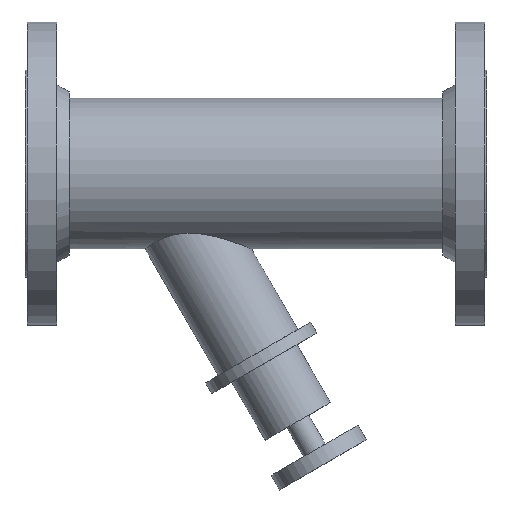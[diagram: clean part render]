
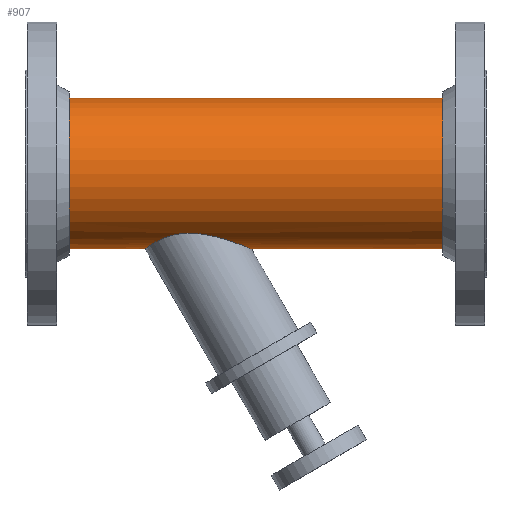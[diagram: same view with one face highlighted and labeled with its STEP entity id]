
A CAD part, top view. The second image highlights one B-rep face of the part: STEP entity #907.
In plain terms, the highlighted cylindrical face has radius 57.15 mm (diameter 114.3 mm), a full revolution.
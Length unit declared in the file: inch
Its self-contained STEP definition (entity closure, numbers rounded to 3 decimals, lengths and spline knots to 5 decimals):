
#45=B_SPLINE_CURVE_WITH_KNOTS('',3,(#1568,#1569,#1570,#1571,#1572,#1573,
#1574,#1575,#1576,#1577,#1578,#1579,#1580,#1581,#1582,#1583,#1584,#1585,
#1586,#1587,#1588,#1589,#1590,#1591,#1592,#1593,#1594,#1595,#1596,#1597,
#1598,#1599),.UNSPECIFIED.,.F.,.F.,(4,2,2,2,2,2,2,2,2,2,2,2,2,2,2,4),(6.32677,
7.01093,7.69508,8.37924,9.0634,10.85847,
11.756,12.65354,13.33788,14.02223,14.70658,
15.39092,16.0566,16.72228,17.38796,18.05364),
 .UNSPECIFIED.);
#46=B_SPLINE_CURVE_WITH_KNOTS('',3,(#1602,#1603,#1604,#1605,#1606,#1607,
#1608,#1609,#1610,#1611,#1612,#1613,#1614,#1615,#1616,#1617,#1618,#1619),
 .UNSPECIFIED.,.F.,.F.,(4,2,2,2,2,2,2,2,4),(18.05364,18.71932,
19.385,20.05068,20.71636,21.40071,22.08506,
22.7694,23.45375),.UNSPECIFIED.);
#47=B_SPLINE_CURVE_WITH_KNOTS('',3,(#1620,#1621,#1622,#1623,#1624,#1625,
#1626,#1627,#1628,#1629,#1630,#1631,#1632,#1633,#1634,#1635),
 .UNSPECIFIED.,.F.,.F.,(4,2,2,2,2,2,2,4),(0.,0.89753,1.79507,
3.59014,4.2743,4.95845,5.64261,6.32677),
 .UNSPECIFIED.);
#69=CYLINDRICAL_SURFACE('',#1033,2.25);
#98=LINE('',#1566,#128);
#99=LINE('',#1600,#129);
#128=VECTOR('',#1290,2.25);
#129=VECTOR('',#1291,2.25);
#210=FACE_OUTER_BOUND('',#290,.T.);
#290=EDGE_LOOP('',(#753,#754,#755,#756,#757,#758,#759,#760,#761,#762,#763));
#311=CIRCLE('',#943,2.25);
#312=CIRCLE('',#944,2.25);
#361=CIRCLE('',#1016,2.25);
#362=CIRCLE('',#1017,2.25);
#393=VERTEX_POINT('',#1389);
#394=VERTEX_POINT('',#1390);
#443=VERTEX_POINT('',#1532);
#444=VERTEX_POINT('',#1533);
#455=VERTEX_POINT('',#1565);
#456=VERTEX_POINT('',#1567);
#457=VERTEX_POINT('',#1601);
#478=EDGE_CURVE('',#393,#394,#311,.T.);
#479=EDGE_CURVE('',#394,#393,#312,.T.);
#548=EDGE_CURVE('',#443,#444,#361,.T.);
#549=EDGE_CURVE('',#444,#443,#362,.T.);
#563=EDGE_CURVE('',#444,#455,#98,.T.);
#564=EDGE_CURVE('',#455,#456,#45,.T.);
#565=EDGE_CURVE('',#456,#394,#99,.T.);
#566=EDGE_CURVE('',#456,#457,#46,.T.);
#567=EDGE_CURVE('',#457,#455,#47,.T.);
#753=ORIENTED_EDGE('',*,*,#548,.T.);
#754=ORIENTED_EDGE('',*,*,#563,.T.);
#755=ORIENTED_EDGE('',*,*,#564,.T.);
#756=ORIENTED_EDGE('',*,*,#565,.T.);
#757=ORIENTED_EDGE('',*,*,#479,.T.);
#758=ORIENTED_EDGE('',*,*,#478,.T.);
#759=ORIENTED_EDGE('',*,*,#565,.F.);
#760=ORIENTED_EDGE('',*,*,#566,.T.);
#761=ORIENTED_EDGE('',*,*,#567,.T.);
#762=ORIENTED_EDGE('',*,*,#563,.F.);
#763=ORIENTED_EDGE('',*,*,#549,.T.);
#907=ADVANCED_FACE('',(#210),#69,.T.);
#943=AXIS2_PLACEMENT_3D('',#1391,#1085,#1086);
#944=AXIS2_PLACEMENT_3D('',#1392,#1087,#1088);
#1016=AXIS2_PLACEMENT_3D('',#1534,#1251,#1252);
#1017=AXIS2_PLACEMENT_3D('',#1535,#1253,#1254);
#1033=AXIS2_PLACEMENT_3D('',#1564,#1288,#1289);
#1085=DIRECTION('center_axis',(1.,0.,0.));
#1086=DIRECTION('ref_axis',(0.,1.,0.));
#1087=DIRECTION('center_axis',(1.,0.,0.));
#1088=DIRECTION('ref_axis',(0.,1.,0.));
#1251=DIRECTION('center_axis',(-1.,0.,0.));
#1252=DIRECTION('ref_axis',(0.,1.,0.));
#1253=DIRECTION('center_axis',(-1.,0.,0.));
#1254=DIRECTION('ref_axis',(0.,1.,0.));
#1288=DIRECTION('center_axis',(1.,0.,0.));
#1289=DIRECTION('ref_axis',(0.,1.,0.));
#1290=DIRECTION('',(-1.,0.,0.));
#1291=DIRECTION('',(-1.,0.,0.));
#1389=CARTESIAN_POINT('',(-5.58,2.25,0.));
#1390=CARTESIAN_POINT('',(-5.58,-2.25,0.));
#1391=CARTESIAN_POINT('Origin',(-5.58,0.,0.));
#1392=CARTESIAN_POINT('Origin',(-5.58,0.,0.));
#1532=CARTESIAN_POINT('',(5.58,2.25,0.));
#1533=CARTESIAN_POINT('',(5.58,-2.25,0.));
#1534=CARTESIAN_POINT('Origin',(5.58,0.,0.));
#1535=CARTESIAN_POINT('Origin',(5.58,0.,0.));
#1564=CARTESIAN_POINT('Origin',(0.,0.,0.));
#1565=CARTESIAN_POINT('',(-0.1362,-2.25,0.));
#1566=CARTESIAN_POINT('',(0.,-2.25,0.));
#1567=CARTESIAN_POINT('',(-3.31162,-2.25,0.));
#1568=CARTESIAN_POINT('Ctrl Pts',(-0.1362,-2.25,0.));
#1569=CARTESIAN_POINT('Ctrl Pts',(-0.1362,-2.25,-0.08978));
#1570=CARTESIAN_POINT('Ctrl Pts',(-0.14964,-2.24453,-0.17954));
#1571=CARTESIAN_POINT('Ctrl Pts',(-0.20115,-2.22384,
-0.35309));
#1572=CARTESIAN_POINT('Ctrl Pts',(-0.23918,-2.20865,
-0.4369));
#1573=CARTESIAN_POINT('Ctrl Pts',(-0.33384,-2.17169,
-0.59395));
#1574=CARTESIAN_POINT('Ctrl Pts',(-0.39055,-2.14991,
-0.66739));
#1575=CARTESIAN_POINT('Ctrl Pts',(-0.51484,-2.1037,-0.80123));
#1576=CARTESIAN_POINT('Ctrl Pts',(-0.58243,-2.07929,-0.86164));
#1577=CARTESIAN_POINT('Ctrl Pts',(-0.83019,-1.99355,
-1.05431));
#1578=CARTESIAN_POINT('Ctrl Pts',(-1.04819,-1.92451,-1.16963));
#1579=CARTESIAN_POINT('Ctrl Pts',(-1.39651,-1.84433,-1.28968));
#1580=CARTESIAN_POINT('Ctrl Pts',(-1.51617,-1.8216,-1.32098));
#1581=CARTESIAN_POINT('Ctrl Pts',(-1.75637,-1.78988,-1.36364));
#1582=CARTESIAN_POINT('Ctrl Pts',(-1.87691,-1.78098,-1.375));
#1583=CARTESIAN_POINT('Ctrl Pts',(-2.08451,-1.78098,-1.375));
#1584=CARTESIAN_POINT('Ctrl Pts',(-2.17745,-1.78624,-1.36829));
#1585=CARTESIAN_POINT('Ctrl Pts',(-2.36064,-1.80955,-1.33732));
#1586=CARTESIAN_POINT('Ctrl Pts',(-2.45087,-1.82762,-1.313));
#1587=CARTESIAN_POINT('Ctrl Pts',(-2.62082,-1.87397,-1.24595));
#1588=CARTESIAN_POINT('Ctrl Pts',(-2.70084,-1.90225,-1.2031));
#1589=CARTESIAN_POINT('Ctrl Pts',(-2.84579,-1.9627,-1.10172));
#1590=CARTESIAN_POINT('Ctrl Pts',(-2.91076,-1.99477,-1.0432));
#1591=CARTESIAN_POINT('Ctrl Pts',(-3.02186,-2.0549,-0.91898));
#1592=CARTESIAN_POINT('Ctrl Pts',(-3.07193,-2.08494,-0.84969));
#1593=CARTESIAN_POINT('Ctrl Pts',(-3.15881,-2.1403,-0.69863));
#1594=CARTESIAN_POINT('Ctrl Pts',(-3.19564,-2.16557,-0.61686));
#1595=CARTESIAN_POINT('Ctrl Pts',(-3.25431,-2.20708,-0.44612));
#1596=CARTESIAN_POINT('Ctrl Pts',(-3.2762,-2.22333,-0.357));
#1597=CARTESIAN_POINT('Ctrl Pts',(-3.30486,-2.2448,-0.17762));
#1598=CARTESIAN_POINT('Ctrl Pts',(-3.31162,-2.25,-0.08736));
#1599=CARTESIAN_POINT('Ctrl Pts',(-3.31162,-2.25,0.));
#1600=CARTESIAN_POINT('',(0.,-2.25,0.));
#1601=CARTESIAN_POINT('',(-1.9947,-1.78098,1.375));
#1602=CARTESIAN_POINT('Ctrl Pts',(-3.31162,-2.25,0.));
#1603=CARTESIAN_POINT('Ctrl Pts',(-3.31162,-2.25,0.08736));
#1604=CARTESIAN_POINT('Ctrl Pts',(-3.30486,-2.2448,0.17762));
#1605=CARTESIAN_POINT('Ctrl Pts',(-3.2762,-2.22333,0.357));
#1606=CARTESIAN_POINT('Ctrl Pts',(-3.25431,-2.20708,0.44612));
#1607=CARTESIAN_POINT('Ctrl Pts',(-3.19564,-2.16557,0.61686));
#1608=CARTESIAN_POINT('Ctrl Pts',(-3.15881,-2.1403,0.69863));
#1609=CARTESIAN_POINT('Ctrl Pts',(-3.07193,-2.08494,0.84969));
#1610=CARTESIAN_POINT('Ctrl Pts',(-3.02186,-2.0549,0.91898));
#1611=CARTESIAN_POINT('Ctrl Pts',(-2.91076,-1.99477,1.0432));
#1612=CARTESIAN_POINT('Ctrl Pts',(-2.84579,-1.9627,1.10172));
#1613=CARTESIAN_POINT('Ctrl Pts',(-2.70084,-1.90225,1.2031));
#1614=CARTESIAN_POINT('Ctrl Pts',(-2.62082,-1.87397,1.24595));
#1615=CARTESIAN_POINT('Ctrl Pts',(-2.45087,-1.82762,1.313));
#1616=CARTESIAN_POINT('Ctrl Pts',(-2.36064,-1.80955,1.33732));
#1617=CARTESIAN_POINT('Ctrl Pts',(-2.17745,-1.78624,1.36829));
#1618=CARTESIAN_POINT('Ctrl Pts',(-2.08451,-1.78098,1.375));
#1619=CARTESIAN_POINT('Ctrl Pts',(-1.9947,-1.78098,1.375));
#1620=CARTESIAN_POINT('Ctrl Pts',(-1.9947,-1.78098,1.375));
#1621=CARTESIAN_POINT('Ctrl Pts',(-1.87691,-1.78098,1.375));
#1622=CARTESIAN_POINT('Ctrl Pts',(-1.75637,-1.78988,1.36364));
#1623=CARTESIAN_POINT('Ctrl Pts',(-1.51617,-1.8216,1.32098));
#1624=CARTESIAN_POINT('Ctrl Pts',(-1.39651,-1.84433,1.28968));
#1625=CARTESIAN_POINT('Ctrl Pts',(-1.04819,-1.92451,1.16963));
#1626=CARTESIAN_POINT('Ctrl Pts',(-0.83019,-1.99355,
1.05431));
#1627=CARTESIAN_POINT('Ctrl Pts',(-0.58243,-2.07929,0.86164));
#1628=CARTESIAN_POINT('Ctrl Pts',(-0.51484,-2.1037,
0.80123));
#1629=CARTESIAN_POINT('Ctrl Pts',(-0.39055,-2.14991,
0.66739));
#1630=CARTESIAN_POINT('Ctrl Pts',(-0.33384,-2.17169,
0.59395));
#1631=CARTESIAN_POINT('Ctrl Pts',(-0.23918,-2.20865,
0.4369));
#1632=CARTESIAN_POINT('Ctrl Pts',(-0.20115,-2.22384,
0.35309));
#1633=CARTESIAN_POINT('Ctrl Pts',(-0.14964,-2.24453,0.17954));
#1634=CARTESIAN_POINT('Ctrl Pts',(-0.1362,-2.25,0.08978));
#1635=CARTESIAN_POINT('Ctrl Pts',(-0.1362,-2.25,0.));
